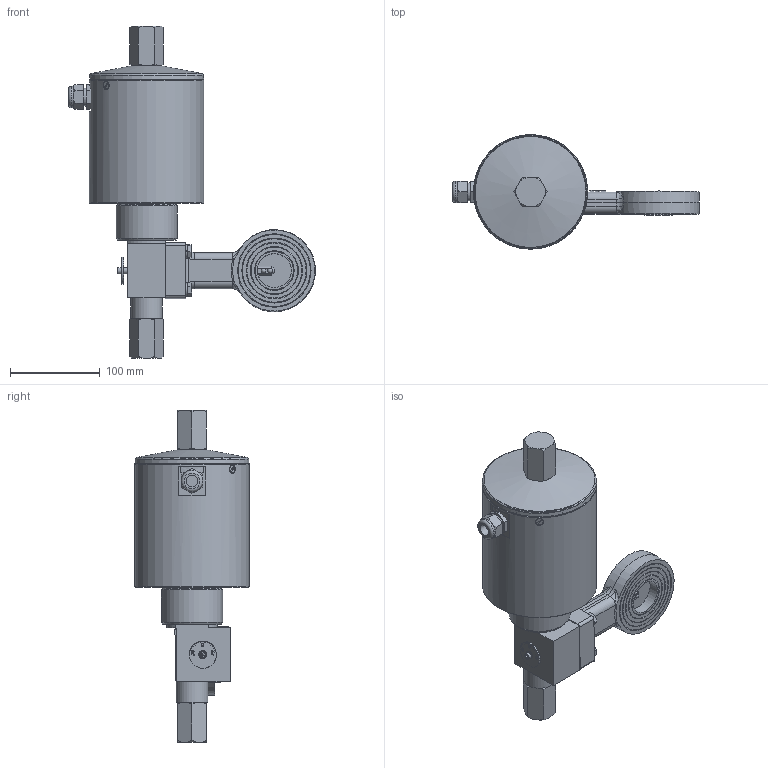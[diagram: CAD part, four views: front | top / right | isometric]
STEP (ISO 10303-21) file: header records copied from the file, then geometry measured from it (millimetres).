
FILE_DESCRIPTION((''),'2;1');
FILE_NAME('G:\CAD-Download\MRK\MRK Ro Ma\DN 40\MRK Ro Ma 15N-4.stp','2010-09-14T14:39:16',('da'),(''),'Autodesk Inventor 2008','Autodesk Inventor 2008','');
FILE_SCHEMA(('AUTOMOTIVE_DESIGN { 1 0 10303 214 1 1 1 1 }'));
Length unit declared in the file: millimetre
Products named in the file (1): Bauteil2
Bounding box: 274.36 x 127 x 368.91 mm (x, y, z)
Volume: 2555963 mm3; surface area: 174726.1 mm2
Topology: 1 solids, 1 shells, 671 faces, 1721 edges, 1092 vertices
Faces by surface type: plane 444, bspline 80, cylinder 70, cone 64, torus 9, sphere 4
Full cylindrical faces by diameter (mm): 3 x2, 7 x2, 8 x5, 9 x1, 10 x1, 10.5 x1, 13 x1, 15 x1, 20 x1, 23.713 x1, 30 x1, 35 x1, 37.7 x1, 38 x1, 62 x1, 68 x1, 121.5 x1, 124 x2, 127 x1
Entity records: 22428 total; most frequent: CARTESIAN_POINT 6666, ORIENTED_EDGE 3228, DIRECTION 2942, EDGE_CURVE 1614, VERTEX_POINT 1067, AXIS2_PLACEMENT_3D 984, VECTOR 974, LINE 974
